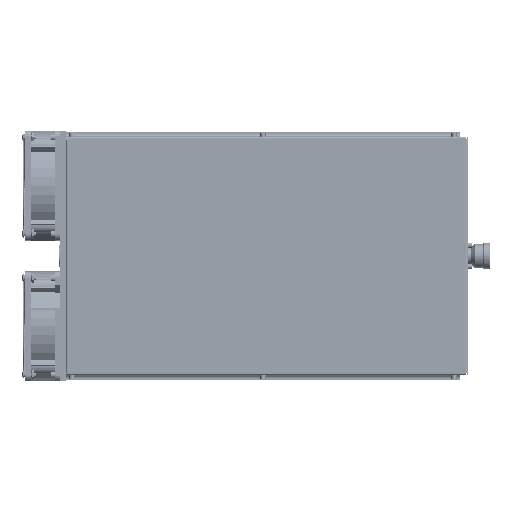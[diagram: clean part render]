
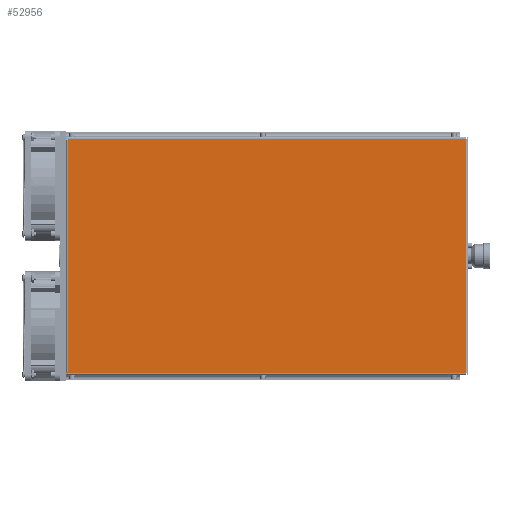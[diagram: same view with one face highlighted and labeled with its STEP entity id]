
A CAD part, left-side view. The second image highlights one B-rep face of the part: STEP entity #52956.
In plain terms, the highlighted planar face has unit normal (-1, 0, 0).
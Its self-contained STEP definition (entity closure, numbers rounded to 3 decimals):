
#2476=LINE('',#111089,#6194);
#2482=LINE('',#111102,#6200);
#2483=LINE('',#111104,#6201);
#2484=LINE('',#111106,#6202);
#2485=LINE('',#111108,#6203);
#2486=LINE('',#111110,#6204);
#2487=LINE('',#111112,#6205);
#2488=LINE('',#111114,#6206);
#2489=LINE('',#111116,#6207);
#2490=LINE('',#111117,#6208);
#6194=VECTOR('',#82960,39.37);
#6200=VECTOR('',#82968,39.37);
#6201=VECTOR('',#82971,39.37);
#6202=VECTOR('',#82972,39.37);
#6203=VECTOR('',#82973,39.37);
#6204=VECTOR('',#82974,39.37);
#6205=VECTOR('',#82975,39.37);
#6206=VECTOR('',#82976,39.37);
#6207=VECTOR('',#82977,39.37);
#6208=VECTOR('',#82978,39.37);
#9646=PLANE('',#73509);
#17900=ORIENTED_EDGE('',*,*,#30214,.F.);
#17901=ORIENTED_EDGE('',*,*,#30215,.T.);
#17902=ORIENTED_EDGE('',*,*,#30216,.T.);
#17903=ORIENTED_EDGE('',*,*,#30217,.T.);
#17904=ORIENTED_EDGE('',*,*,#30218,.T.);
#17905=ORIENTED_EDGE('',*,*,#30219,.T.);
#17906=ORIENTED_EDGE('',*,*,#30220,.T.);
#17907=ORIENTED_EDGE('',*,*,#30221,.F.);
#17908=ORIENTED_EDGE('',*,*,#30208,.F.);
#17909=ORIENTED_EDGE('',*,*,#30222,.T.);
#30208=EDGE_CURVE('',#36819,#36820,#2476,.T.);
#30214=EDGE_CURVE('',#36825,#36823,#2482,.T.);
#30215=EDGE_CURVE('',#36825,#36826,#2483,.T.);
#30216=EDGE_CURVE('',#36826,#36827,#2484,.T.);
#30217=EDGE_CURVE('',#36827,#36828,#2485,.T.);
#30218=EDGE_CURVE('',#36828,#36829,#2486,.T.);
#30219=EDGE_CURVE('',#36829,#36830,#2487,.T.);
#30220=EDGE_CURVE('',#36830,#36831,#2488,.T.);
#30221=EDGE_CURVE('',#36820,#36831,#2489,.T.);
#30222=EDGE_CURVE('',#36819,#36823,#2490,.T.);
#36819=VERTEX_POINT('',#111088);
#36820=VERTEX_POINT('',#111090);
#36823=VERTEX_POINT('',#111097);
#36825=VERTEX_POINT('',#111101);
#36826=VERTEX_POINT('',#111105);
#36827=VERTEX_POINT('',#111107);
#36828=VERTEX_POINT('',#111109);
#36829=VERTEX_POINT('',#111111);
#36830=VERTEX_POINT('',#111113);
#36831=VERTEX_POINT('',#111115);
#42254=EDGE_LOOP('',(#17900,#17901,#17902,#17903,#17904,#17905,#17906,#17907,
#17908,#17909));
#47378=FACE_BOUND('',#42254,.T.);
#52956=ADVANCED_FACE('',(#47378),#9646,.T.);
#73509=AXIS2_PLACEMENT_3D('',#111103,#82969,#82970);
#82960=DIRECTION('',(0.,0.,1.));
#82968=DIRECTION('',(0.,0.,1.));
#82969=DIRECTION('',(-1.,0.,0.));
#82970=DIRECTION('',(0.,0.,1.));
#82971=DIRECTION('',(0.,1.,0.));
#82972=DIRECTION('',(0.,0.,-1.));
#82973=DIRECTION('',(0.,-1.,0.));
#82974=DIRECTION('',(0.,0.,1.));
#82975=DIRECTION('',(0.,1.,0.));
#82976=DIRECTION('',(0.,0.,-1.));
#82977=DIRECTION('',(0.,1.,0.));
#82978=DIRECTION('',(0.,0.,-1.));
#111088=CARTESIAN_POINT('',(-4.744,16.722,7.621));
#111089=CARTESIAN_POINT('',(-4.744,16.722,7.659));
#111090=CARTESIAN_POINT('',(-4.744,16.722,7.659));
#111097=CARTESIAN_POINT('',(-4.744,16.722,-2.291));
#111101=CARTESIAN_POINT('',(-4.744,16.722,-2.329));
#111102=CARTESIAN_POINT('',(-4.744,16.722,7.659));
#111103=CARTESIAN_POINT('',(-4.744,-0.286,7.745));
#111104=CARTESIAN_POINT('',(-4.744,16.8,-2.329));
#111105=CARTESIAN_POINT('',(-4.744,16.8,-2.329));
#111106=CARTESIAN_POINT('',(-4.744,16.8,7.745));
#111107=CARTESIAN_POINT('',(-4.744,16.8,-2.337));
#111108=CARTESIAN_POINT('',(-4.744,16.8,-2.337));
#111109=CARTESIAN_POINT('',(-4.744,-0.27,-2.337));
#111110=CARTESIAN_POINT('',(-4.744,-0.27,-2.415));
#111111=CARTESIAN_POINT('',(-4.744,-0.27,7.667));
#111112=CARTESIAN_POINT('',(-4.744,-0.27,7.667));
#111113=CARTESIAN_POINT('',(-4.744,16.8,7.667));
#111114=CARTESIAN_POINT('',(-4.744,16.8,7.745));
#111115=CARTESIAN_POINT('',(-4.744,16.8,7.659));
#111116=CARTESIAN_POINT('',(-4.744,16.8,7.659));
#111117=CARTESIAN_POINT('',(-4.744,16.722,7.621));
